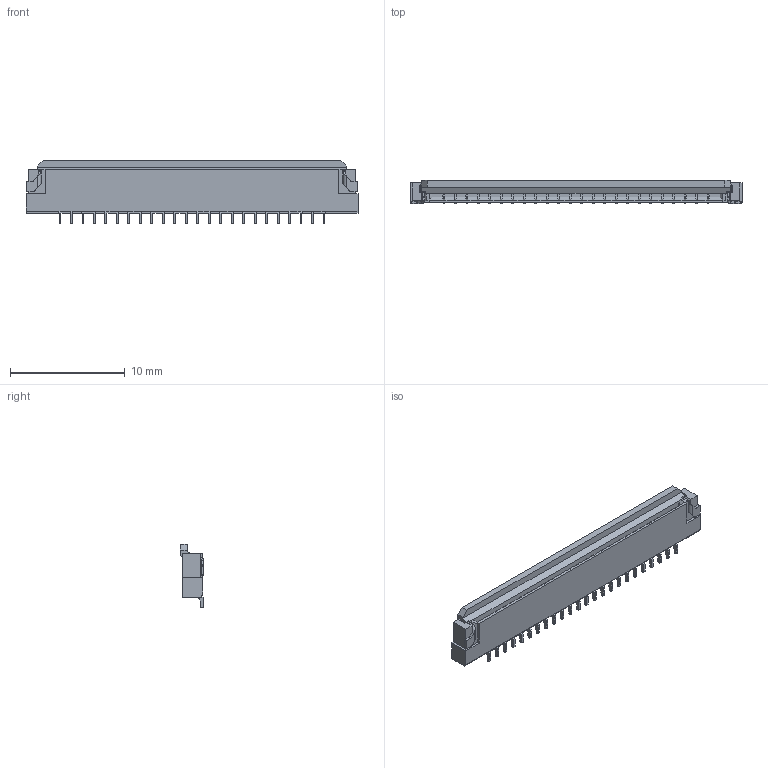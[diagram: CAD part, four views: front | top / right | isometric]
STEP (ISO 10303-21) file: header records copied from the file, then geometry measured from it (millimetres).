
FILE_DESCRIPTION((''),'2;1');
FILE_NAME('S-51549-026XX-XXX','2011-12-19T',('12114032'),(''),'PRO/ENGINEER BY PARAMETRIC TECHNOLOGY CORPORATION, 2009360','PRO/ENGINEER BY PARAMETRIC TECHNOLOGY CORPORATION, 2009360','');
FILE_SCHEMA(('CONFIG_CONTROL_DESIGN'));
Products named in the file (1): S-51549-026XX-XXX
Bounding box: 28.9 x 2 x 5.51 mm (x, y, z)
Volume: 141 mm3; surface area: 868.7 mm2
Topology: 2 solids, 2 shells, 1818 faces, 6728 edges, 4712 vertices
Faces by surface type: plane 1209, cylinder 599, bspline 6, torus 4
Entity records: 73680 total; most frequent: CARTESIAN_POINT 13800, ORIENTED_EDGE 13456, DIRECTION 12432, EDGE_CURVE 6728, VERTEX_POINT 4712, VECTOR 4532, LINE 4532, AXIS2_PLACEMENT_3D 3950
